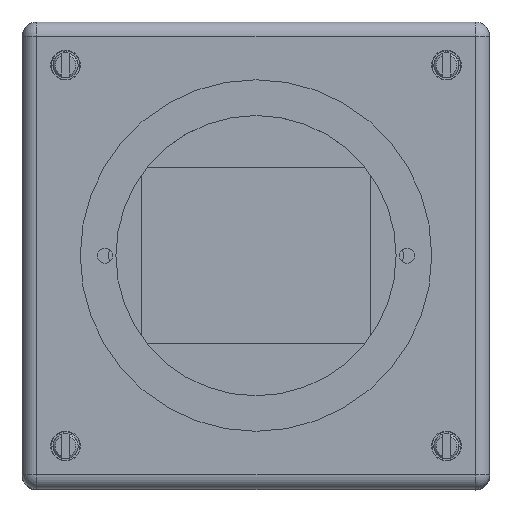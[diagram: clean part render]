
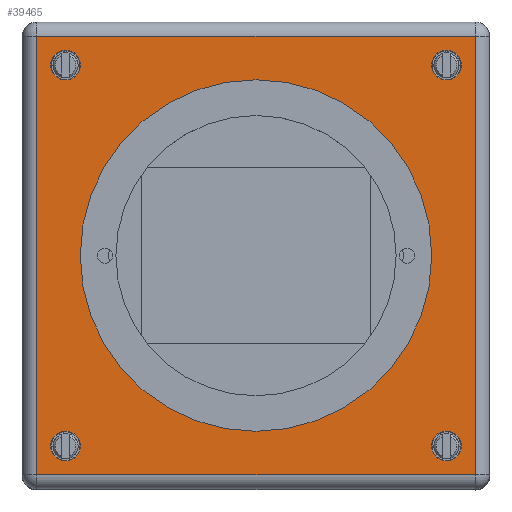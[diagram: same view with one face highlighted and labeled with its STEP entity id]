
A CAD part, top view. The second image highlights one B-rep face of the part: STEP entity #39465.
In plain terms, the highlighted planar face has unit normal (0, 0, 1).
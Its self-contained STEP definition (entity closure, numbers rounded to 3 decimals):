
#4224=LINE('',#72629,#7719);
#4227=LINE('',#72651,#7722);
#4229=LINE('',#72654,#7724);
#4230=LINE('',#72656,#7725);
#7719=VECTOR('',#48765,10.);
#7722=VECTOR('',#48794,10.);
#7724=VECTOR('',#48798,10.);
#7725=VECTOR('',#48801,10.);
#9618=FACE_BOUND('',#13187,.T.);
#9619=FACE_BOUND('',#13188,.T.);
#9620=FACE_BOUND('',#13189,.T.);
#9621=FACE_BOUND('',#13190,.T.);
#9622=FACE_BOUND('',#13191,.T.);
#10983=FACE_OUTER_BOUND('',#13186,.T.);
#13186=EDGE_LOOP('',(#31177,#31178,#31179,#31180));
#13187=EDGE_LOOP('',(#31181));
#13188=EDGE_LOOP('',(#31182));
#13189=EDGE_LOOP('',(#31183));
#13190=EDGE_LOOP('',(#31184));
#13191=EDGE_LOOP('',(#31185));
#14447=CIRCLE('',#42174,2.067);
#14450=CIRCLE('',#42179,2.067);
#14453=CIRCLE('',#42184,2.067);
#14456=CIRCLE('',#42189,2.067);
#14490=CIRCLE('',#42251,24.459);
#17322=VERTEX_POINT('',#72528);
#17325=VERTEX_POINT('',#72537);
#17328=VERTEX_POINT('',#72546);
#17331=VERTEX_POINT('',#72555);
#17347=VERTEX_POINT('',#72609);
#17349=VERTEX_POINT('',#72618);
#17352=VERTEX_POINT('',#72631);
#17356=VERTEX_POINT('',#72642);
#17361=VERTEX_POINT('',#72667);
#22291=EDGE_CURVE('',#17322,#17322,#14447,.T.);
#22295=EDGE_CURVE('',#17325,#17325,#14450,.T.);
#22299=EDGE_CURVE('',#17328,#17328,#14453,.T.);
#22303=EDGE_CURVE('',#17331,#17331,#14456,.T.);
#22338=EDGE_CURVE('',#17347,#17349,#4224,.T.);
#22349=EDGE_CURVE('',#17349,#17356,#4227,.T.);
#22351=EDGE_CURVE('',#17356,#17352,#4229,.T.);
#22352=EDGE_CURVE('',#17352,#17347,#4230,.T.);
#22357=EDGE_CURVE('',#17361,#17361,#14490,.T.);
#31177=ORIENTED_EDGE('',*,*,#22338,.F.);
#31178=ORIENTED_EDGE('',*,*,#22352,.F.);
#31179=ORIENTED_EDGE('',*,*,#22351,.F.);
#31180=ORIENTED_EDGE('',*,*,#22349,.F.);
#31181=ORIENTED_EDGE('',*,*,#22291,.T.);
#31182=ORIENTED_EDGE('',*,*,#22295,.T.);
#31183=ORIENTED_EDGE('',*,*,#22299,.T.);
#31184=ORIENTED_EDGE('',*,*,#22303,.T.);
#31185=ORIENTED_EDGE('',*,*,#22357,.T.);
#36130=PLANE('',#42250);
#39465=ADVANCED_FACE('',(#10983,#9618,#9619,#9620,#9621,#9622),#36130,.T.);
#42174=AXIS2_PLACEMENT_3D('',#72529,#48638,#48639);
#42179=AXIS2_PLACEMENT_3D('',#72538,#48649,#48650);
#42184=AXIS2_PLACEMENT_3D('',#72547,#48660,#48661);
#42189=AXIS2_PLACEMENT_3D('',#72556,#48671,#48672);
#42250=AXIS2_PLACEMENT_3D('',#72666,#48813,#48814);
#42251=AXIS2_PLACEMENT_3D('',#72668,#48815,#48816);
#48638=DIRECTION('center_axis',(0.,0.,-1.));
#48639=DIRECTION('ref_axis',(1.,0.,0.));
#48649=DIRECTION('center_axis',(0.,0.,-1.));
#48650=DIRECTION('ref_axis',(1.,0.,0.));
#48660=DIRECTION('center_axis',(0.,0.,-1.));
#48661=DIRECTION('ref_axis',(1.,0.,0.));
#48671=DIRECTION('center_axis',(0.,0.,-1.));
#48672=DIRECTION('ref_axis',(1.,0.,0.));
#48765=DIRECTION('',(-1.,0.,0.));
#48794=DIRECTION('',(0.,1.,0.));
#48798=DIRECTION('',(1.,0.,0.));
#48801=DIRECTION('',(0.,-1.,0.));
#48813=DIRECTION('center_axis',(0.,0.,1.));
#48814=DIRECTION('ref_axis',(1.,0.,0.));
#48815=DIRECTION('center_axis',(0.,0.,-1.));
#48816=DIRECTION('ref_axis',(1.,0.,0.));
#72528=CARTESIAN_POINT('',(24.433,-26.5,12.));
#72529=CARTESIAN_POINT('Origin',(26.5,-26.5,12.));
#72537=CARTESIAN_POINT('',(-28.567,26.5,12.));
#72538=CARTESIAN_POINT('Origin',(-26.5,26.5,12.));
#72546=CARTESIAN_POINT('',(24.433,26.5,12.));
#72547=CARTESIAN_POINT('Origin',(26.5,26.5,12.));
#72555=CARTESIAN_POINT('',(-28.567,-26.5,12.));
#72556=CARTESIAN_POINT('Origin',(-26.5,-26.5,12.));
#72609=CARTESIAN_POINT('',(30.5,-30.5,12.));
#72618=CARTESIAN_POINT('',(-30.5,-30.5,12.));
#72629=CARTESIAN_POINT('',(16.25,-30.5,12.));
#72631=CARTESIAN_POINT('',(30.5,30.5,12.));
#72642=CARTESIAN_POINT('',(-30.5,30.5,12.));
#72651=CARTESIAN_POINT('',(-30.5,-16.25,12.));
#72654=CARTESIAN_POINT('',(-16.25,30.5,12.));
#72656=CARTESIAN_POINT('',(30.5,16.25,12.));
#72666=CARTESIAN_POINT('Origin',(0.,0.,
12.));
#72667=CARTESIAN_POINT('',(-24.459,0.,12.));
#72668=CARTESIAN_POINT('Origin',(0.,0.,12.));
